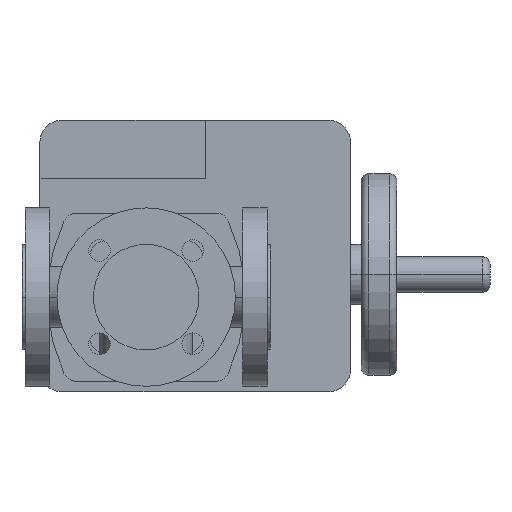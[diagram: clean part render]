
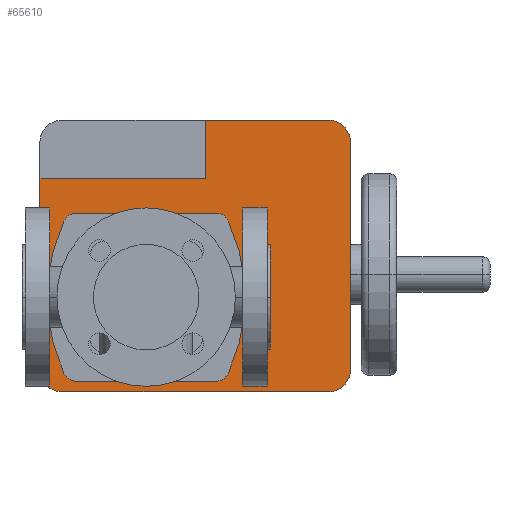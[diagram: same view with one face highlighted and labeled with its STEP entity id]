
A CAD part, front view. The second image highlights one B-rep face of the part: STEP entity #65610.
In plain terms, the highlighted planar face has unit normal (0, -1, 0).
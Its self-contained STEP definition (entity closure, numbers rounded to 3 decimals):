
#53200=CARTESIAN_POINT('',(197.6,569.,-61.));
#53210=VERTEX_POINT('',#53200);
#53260=CARTESIAN_POINT('',(197.6,569.,-47.));
#53270=DIRECTION('',(0.,1.,0.));
#53280=DIRECTION('',(1.,0.,0.));
#53290=AXIS2_PLACEMENT_3D('',#53260,#53270,#53280);
#53300=CIRCLE('',#53290,14.);
#53310=CARTESIAN_POINT('',(211.6,569.,-47.));
#53320=VERTEX_POINT('',#53310);
#53330=EDGE_CURVE('',#53320,#53210,#53300,.T.);
#56070=CARTESIAN_POINT('',(197.6,569.,114.));
#56080=VERTEX_POINT('',#56070);
#56110=CARTESIAN_POINT('',(25.6,569.,114.));
#56120=DIRECTION('',(1.,0.,0.));
#56130=VECTOR('',#56120,1.);
#56140=LINE('',#56110,#56130);
#56150=CARTESIAN_POINT('',(118.1,569.,114.));
#56160=VERTEX_POINT('',#56150);
#56170=EDGE_CURVE('',#56160,#56080,#56140,.T.);
#59570=CARTESIAN_POINT('',(11.6,569.,-47.));
#59580=DIRECTION('',(0.,0.,1.));
#59590=VECTOR('',#59580,1.);
#59600=LINE('',#59570,#59590);
#59610=CARTESIAN_POINT('',(11.6,569.,-47.));
#59620=VERTEX_POINT('',#59610);
#59630=CARTESIAN_POINT('',(11.6,569.,76.5));
#59640=VERTEX_POINT('',#59630);
#59650=EDGE_CURVE('',#59620,#59640,#59600,.T.);
#60160=CARTESIAN_POINT('',(25.6,569.,-47.));
#60170=DIRECTION('',(0.,1.,0.));
#60180=DIRECTION('',(0.,0.,-1.));
#60190=AXIS2_PLACEMENT_3D('',#60160,#60170,#60180);
#60200=CIRCLE('',#60190,14.);
#60210=CARTESIAN_POINT('',(25.6,569.,-61.));
#60220=VERTEX_POINT('',#60210);
#60230=EDGE_CURVE('',#60220,#59620,#60200,.T.);
#60700=CARTESIAN_POINT('',(27.058,569.,49.002));
#60710=VERTEX_POINT('',#60700);
#60740=CARTESIAN_POINT('',(35.216,569.,45.2));
#60750=DIRECTION('',(0.,1.,0.));
#60760=DIRECTION('',(-0.906,0.,0.422));
#60770=AXIS2_PLACEMENT_3D('',#60740,#60750,#60760);
#60780=CIRCLE('',#60770,9.);
#60790=CARTESIAN_POINT('',(35.216,569.,54.2));
#60800=VERTEX_POINT('',#60790);
#60810=EDGE_CURVE('',#60710,#60800,#60780,.T.);
#61070=CARTESIAN_POINT('',(57.608,569.,54.2));
#61080=DIRECTION('',(1.,0.,0.));
#61090=VECTOR('',#61080,1.);
#61100=LINE('',#61070,#61090);
#61110=CARTESIAN_POINT('',(124.784,569.,54.2));
#61120=VERTEX_POINT('',#61110);
#61130=EDGE_CURVE('',#60800,#61120,#61100,.T.);
#61380=CARTESIAN_POINT('',(124.784,569.,45.2));
#61390=DIRECTION('',(0.,1.,0.));
#61400=DIRECTION('',(0.,0.,1.));
#61410=AXIS2_PLACEMENT_3D('',#61380,#61390,#61400);
#61420=CIRCLE('',#61410,9.);
#61430=CARTESIAN_POINT('',(132.942,569.,49.002));
#61440=VERTEX_POINT('',#61430);
#61450=EDGE_CURVE('',#61120,#61440,#61420,.T.);
#61710=CARTESIAN_POINT('',(27.8,569.,0.))
;
#61720=DIRECTION('',(0.,1.,0.));
#61730=DIRECTION('',(0.906,0.,0.422));
#61740=AXIS2_PLACEMENT_3D('',#61710,#61720,#61730);
#61750=CIRCLE('',#61740,116.);
#61760=CARTESIAN_POINT('',(132.942,569.,-49.002));
#61770=VERTEX_POINT('',#61760);
#61780=EDGE_CURVE('',#61440,#61770,#61750,.T.);
#62040=CARTESIAN_POINT('',(124.784,569.,-45.2));
#62050=DIRECTION('',(0.,1.,0.));
#62060=DIRECTION('',(0.906,0.,-0.422));
#62070=AXIS2_PLACEMENT_3D('',#62040,#62050,#62060);
#62080=CIRCLE('',#62070,9.);
#62090=CARTESIAN_POINT('',(124.784,569.,-54.2));
#62100=VERTEX_POINT('',#62090);
#62110=EDGE_CURVE('',#61770,#62100,#62080,.T.);
#62370=CARTESIAN_POINT('',(102.392,569.,-54.2));
#62380=DIRECTION('',(-1.,0.,0.));
#62390=VECTOR('',#62380,1.);
#62400=LINE('',#62370,#62390);
#62410=CARTESIAN_POINT('',(35.216,569.,-54.2));
#62420=VERTEX_POINT('',#62410);
#62430=EDGE_CURVE('',#62100,#62420,#62400,.T.);
#62680=CARTESIAN_POINT('',(35.216,569.,-45.2));
#62690=DIRECTION('',(0.,1.,0.));
#62700=DIRECTION('',(0.,0.,-1.));
#62710=AXIS2_PLACEMENT_3D('',#62680,#62690,#62700);
#62720=CIRCLE('',#62710,9.);
#62730=CARTESIAN_POINT('',(27.058,569.,-49.002));
#62740=VERTEX_POINT('',#62730);
#62750=EDGE_CURVE('',#62420,#62740,#62720,.T.);
#63010=CARTESIAN_POINT('',(132.2,569.,0.));
#63020=DIRECTION('',(0.,1.,0.));
#63030=DIRECTION('',(-0.906,0.,-0.422));
#63040=AXIS2_PLACEMENT_3D('',#63010,#63020,#63030);
#63050=CIRCLE('',#63040,116.);
#63060=EDGE_CURVE('',#62740,#60710,#63050,.T.);
#63740=CARTESIAN_POINT('',(211.6,569.,100.));
#63750=VERTEX_POINT('',#63740);
#63800=CARTESIAN_POINT('',(197.6,569.,100.));
#63810=DIRECTION('',(0.,1.,0.));
#63820=DIRECTION('',(0.,0.,1.));
#63830=AXIS2_PLACEMENT_3D('',#63800,#63810,#63820);
#63840=CIRCLE('',#63830,14.);
#63850=EDGE_CURVE('',#56080,#63750,#63840,.T.);
#64090=CARTESIAN_POINT('',(211.6,569.,100.));
#64100=DIRECTION('',(0.,0.,-1.));
#64110=VECTOR('',#64100,1.);
#64120=LINE('',#64090,#64110);
#64130=EDGE_CURVE('',#63750,#53320,#64120,.T.);
#64510=CARTESIAN_POINT('',(197.6,569.,-61.));
#64520=DIRECTION('',(-1.,0.,0.));
#64530=VECTOR('',#64520,1.);
#64540=LINE('',#64510,#64530);
#64550=EDGE_CURVE('',#53210,#60220,#64540,.T.);
#64720=CARTESIAN_POINT('',(118.1,569.,38.25));
#64730=DIRECTION('',(0.,0.,-1.));
#64740=VECTOR('',#64730,1.);
#64750=LINE('',#64720,#64740);
#64760=CARTESIAN_POINT('',(118.1,569.,76.5));
#64770=VERTEX_POINT('',#64760);
#64780=EDGE_CURVE('',#56160,#64770,#64750,.T.);
#65300=CARTESIAN_POINT('',(80.,569.,0.));
#65310=DIRECTION('',(0.,1.,0.));
#65320=DIRECTION('',(0.,0.,1.));
#65330=AXIS2_PLACEMENT_3D('',#65300,#65310,#65320);
#65340=PLANE('',#65330);
#65350=ORIENTED_EDGE('',*,*,#63060,.T.);
#65360=ORIENTED_EDGE('',*,*,#62750,.T.);
#65370=ORIENTED_EDGE('',*,*,#62430,.T.);
#65380=ORIENTED_EDGE('',*,*,#62110,.T.);
#65390=ORIENTED_EDGE('',*,*,#61780,.T.);
#65400=ORIENTED_EDGE('',*,*,#61450,.T.);
#65410=ORIENTED_EDGE('',*,*,#61130,.T.);
#65420=ORIENTED_EDGE('',*,*,#60810,.T.);
#65430=EDGE_LOOP('',(#65420,#65410,#65400,#65390,#65380,#65370,#65360,
#65350));
#65440=FACE_BOUND('',#65430,.T.);
#65450=ORIENTED_EDGE('',*,*,#64780,.T.);
#65460=ORIENTED_EDGE('',*,*,#56170,.F.);
#65470=ORIENTED_EDGE('',*,*,#63850,.F.);
#65480=ORIENTED_EDGE('',*,*,#64130,.F.);
#65490=ORIENTED_EDGE('',*,*,#53330,.F.);
#65500=ORIENTED_EDGE('',*,*,#64550,.F.);
#65510=ORIENTED_EDGE('',*,*,#60230,.F.);
#65520=ORIENTED_EDGE('',*,*,#59650,.F.);
#65530=CARTESIAN_POINT('',(45.3,569.,76.5));
#65540=DIRECTION('',(-1.,0.,0.));
#65550=VECTOR('',#65540,1.);
#65560=LINE('',#65530,#65550);
#65570=EDGE_CURVE('',#64770,#59640,#65560,.T.);
#65580=ORIENTED_EDGE('',*,*,#65570,.T.);
#65590=EDGE_LOOP('',(#65580,#65520,#65510,#65500,#65490,#65480,#65470,
#65460,#65450));
#65600=FACE_OUTER_BOUND('',#65590,.T.);
#65610=ADVANCED_FACE('',(#65440,#65600),#65340,.F.);
